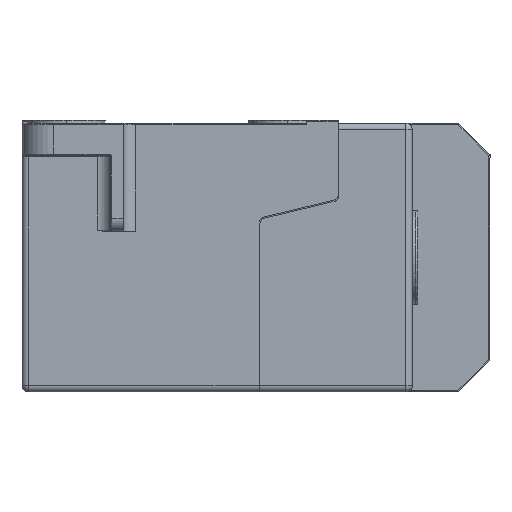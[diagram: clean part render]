
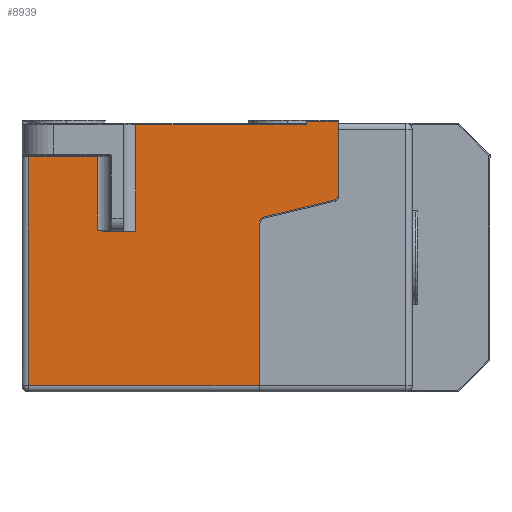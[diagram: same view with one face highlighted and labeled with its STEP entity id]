
A CAD part, left-side view. The second image highlights one B-rep face of the part: STEP entity #8939.
In plain terms, the highlighted planar face has unit normal (-1, 0, 0).
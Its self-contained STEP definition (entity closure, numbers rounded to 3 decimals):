
#9 = VERTEX_POINT ( 'NONE', #10874 ) ;
#261 = ORIENTED_EDGE ( 'NONE', *, *, #4967, .T. ) ;
#498 = LINE ( 'NONE', #16789, #13470 ) ;
#614 = CARTESIAN_POINT ( 'NONE',  ( -28.25, -9.82, 15.95 ) ) ;
#731 = VERTEX_POINT ( 'NONE', #8170 ) ;
#748 = CIRCLE ( 'NONE', #12343, 1. ) ;
#928 = EDGE_CURVE ( 'NONE', #17488, #10133, #8246, .T. ) ;
#931 = DIRECTION ( 'NONE',  ( 0., -1., 0. ) ) ;
#943 = EDGE_CURVE ( 'NONE', #4259, #10300, #11439, .T. ) ;
#1082 = VECTOR ( 'NONE', #17189, 1000. ) ;
#1321 = LINE ( 'NONE', #8893, #17265 ) ;
#1484 = EDGE_LOOP ( 'NONE', ( #13990, #9641, #17494, #7492, #1704, #8102, #261, #4943, #13448, #2983, #2399, #9539, #15012, #11190, #14507 ) ) ;
#1704 = ORIENTED_EDGE ( 'NONE', *, *, #17612, .T. ) ;
#2195 = B_SPLINE_CURVE_WITH_KNOTS ( 'NONE', 3,
 ( #3677, #13184, #14422, #17338, #17218, #6281 ),
 .UNSPECIFIED., .F., .F.,
 ( 4, 2, 4 ),
 ( 0., 0., 0.001 ),
 .UNSPECIFIED. ) ;
#2205 = VERTEX_POINT ( 'NONE', #8813 ) ;
#2260 = EDGE_CURVE ( 'NONE', #9, #14930, #14151, .T. ) ;
#2310 = FACE_OUTER_BOUND ( 'NONE', #1484, .T. ) ;
#2316 = AXIS2_PLACEMENT_3D ( 'NONE', #5089, #3665, #17075 ) ;
#2399 = ORIENTED_EDGE ( 'NONE', *, *, #8141, .T. ) ;
#2705 = DIRECTION ( 'NONE',  ( 0., 0., -1. ) ) ;
#2983 = ORIENTED_EDGE ( 'NONE', *, *, #15785, .T. ) ;
#3482 = VERTEX_POINT ( 'NONE', #6867 ) ;
#3537 = DIRECTION ( 'NONE',  ( 0., 0., 1. ) ) ;
#3665 = DIRECTION ( 'NONE',  ( -1., 0., 0. ) ) ;
#3677 = CARTESIAN_POINT ( 'NONE',  ( -28.25, -10.737, 4.15 ) ) ;
#3710 = LINE ( 'NONE', #12188, #9440 ) ;
#3778 = VERTEX_POINT ( 'NONE', #13993 ) ;
#3858 = VERTEX_POINT ( 'NONE', #14454 ) ;
#3953 = CARTESIAN_POINT ( 'NONE',  ( -28.25, -15.82, 21.05 ) ) ;
#3956 = LINE ( 'NONE', #8504, #16912 ) ;
#3969 = VERTEX_POINT ( 'NONE', #10594 ) ;
#4259 = VERTEX_POINT ( 'NONE', #614 ) ;
#4457 = VECTOR ( 'NONE', #14435, 1000. ) ;
#4781 = DIRECTION ( 'NONE',  ( 0., 0., -1. ) ) ;
#4787 = VERTEX_POINT ( 'NONE', #7178 ) ;
#4789 = CARTESIAN_POINT ( 'NONE',  ( -28.25, 1.18, 15.95 ) ) ;
#4943 = ORIENTED_EDGE ( 'NONE', *, *, #7413, .T. ) ;
#4967 = EDGE_CURVE ( 'NONE', #17488, #731, #2195, .T. ) ;
#5089 = CARTESIAN_POINT ( 'NONE',  ( -28.25, -46.82, 10.038 ) ) ;
#5499 = LINE ( 'NONE', #15739, #4457 ) ;
#5874 = EDGE_CURVE ( 'NONE', #3778, #2205, #16897, .T. ) ;
#5992 = DIRECTION ( 'NONE',  ( 1., 0., 0. ) ) ;
#6146 = DIRECTION ( 'NONE',  ( 0., 1., 0. ) ) ;
#6281 = CARTESIAN_POINT ( 'NONE',  ( -28.25, -9.82, 4.35 ) ) ;
#6553 = VERTEX_POINT ( 'NONE', #3953 ) ;
#6659 = CARTESIAN_POINT ( 'NONE',  ( -28.25, 1.18, 15.95 ) ) ;
#6867 = CARTESIAN_POINT ( 'NONE',  ( -28.25, 1.18, -20.25 ) ) ;
#7165 = LINE ( 'NONE', #13092, #13544 ) ;
#7178 = CARTESIAN_POINT ( 'NONE',  ( -28.25, -35.32, -20.25 ) ) ;
#7413 = EDGE_CURVE ( 'NONE', #731, #4259, #1321, .T. ) ;
#7417 = CARTESIAN_POINT ( 'NONE',  ( -28.25, -35.32, 21.25 ) ) ;
#7492 = ORIENTED_EDGE ( 'NONE', *, *, #15004, .T. ) ;
#7603 = CARTESIAN_POINT ( 'NONE',  ( -28.25, -42.82, 21.55 ) ) ;
#7672 = LINE ( 'NONE', #10488, #11496 ) ;
#7689 = DIRECTION ( 'NONE',  ( 1., 0., 0. ) ) ;
#7878 = AXIS2_PLACEMENT_3D ( 'NONE', #7417, #5992, #12825 ) ;
#8102 = ORIENTED_EDGE ( 'NONE', *, *, #928, .F. ) ;
#8141 = EDGE_CURVE ( 'NONE', #3482, #4787, #7672, .T. ) ;
#8159 = CARTESIAN_POINT ( 'NONE',  ( -28.25, 1.18, -20.25 ) ) ;
#8170 = CARTESIAN_POINT ( 'NONE',  ( -28.25, -9.82, 4.35 ) ) ;
#8246 = LINE ( 'NONE', #15761, #14203 ) ;
#8504 = CARTESIAN_POINT ( 'NONE',  ( -28.25, -42.82, 21.75 ) ) ;
#8559 = CARTESIAN_POINT ( 'NONE',  ( -28.25, -36.087, 6.434 ) ) ;
#8811 = DIRECTION ( 'NONE',  ( 0., 0., -1. ) ) ;
#8813 = CARTESIAN_POINT ( 'NONE',  ( -28.25, -42.82, 21.55 ) ) ;
#8893 = CARTESIAN_POINT ( 'NONE',  ( -28.25, -9.82, 16.15 ) ) ;
#8939 = ADVANCED_FACE ( 'NONE', ( #2310 ), #15599, .F. ) ;
#9440 = VECTOR ( 'NONE', #9575, 1000. ) ;
#9539 = ORIENTED_EDGE ( 'NONE', *, *, #16200, .F. ) ;
#9575 = DIRECTION ( 'NONE',  ( 0., 0., -1. ) ) ;
#9641 = ORIENTED_EDGE ( 'NONE', *, *, #5874, .T. ) ;
#10105 = CARTESIAN_POINT ( 'NONE',  ( -28.25, -47.82, 10.038 ) ) ;
#10120 = VERTEX_POINT ( 'NONE', #8559 ) ;
#10125 = DIRECTION ( 'NONE',  ( 0., -1., 0. ) ) ;
#10133 = VERTEX_POINT ( 'NONE', #16877 ) ;
#10300 = VERTEX_POINT ( 'NONE', #6659 ) ;
#10303 = CARTESIAN_POINT ( 'NONE',  ( -28.25, -38.724, 7.067 ) ) ;
#10333 = DIRECTION ( 'NONE',  ( 0., 1., 0. ) ) ;
#10488 = CARTESIAN_POINT ( 'NONE',  ( -28.25, -35.32, -20.25 ) ) ;
#10594 = CARTESIAN_POINT ( 'NONE',  ( -28.25, -35.32, 5.462 ) ) ;
#10730 = VECTOR ( 'NONE', #10333, 1000. ) ;
#10852 = LINE ( 'NONE', #10303, #1082 ) ;
#10874 = CARTESIAN_POINT ( 'NONE',  ( -28.25, -47.053, 9.066 ) ) ;
#11190 = ORIENTED_EDGE ( 'NONE', *, *, #14416, .T. ) ;
#11252 = DIRECTION ( 'NONE',  ( 0., 0., -1. ) ) ;
#11439 = LINE ( 'NONE', #4789, #13580 ) ;
#11496 = VECTOR ( 'NONE', #931, 1000. ) ;
#11660 = CARTESIAN_POINT ( 'NONE',  ( -28.25, -36.32, 5.462 ) ) ;
#12022 = EDGE_CURVE ( 'NONE', #3969, #10120, #748, .T. ) ;
#12057 = LINE ( 'NONE', #8159, #16742 ) ;
#12188 = CARTESIAN_POINT ( 'NONE',  ( -28.25, -47.82, 21.25 ) ) ;
#12322 = EDGE_CURVE ( 'NONE', #3778, #14930, #3710, .T. ) ;
#12343 = AXIS2_PLACEMENT_3D ( 'NONE', #11660, #7689, #3537 ) ;
#12825 = DIRECTION ( 'NONE',  ( 0., 0., 1. ) ) ;
#13092 = CARTESIAN_POINT ( 'NONE',  ( -28.25, -35.32, 21.25 ) ) ;
#13184 = CARTESIAN_POINT ( 'NONE',  ( -28.25, -10.579, 4.15 ) ) ;
#13448 = ORIENTED_EDGE ( 'NONE', *, *, #943, .T. ) ;
#13470 = VECTOR ( 'NONE', #8811, 1000. ) ;
#13544 = VECTOR ( 'NONE', #4781, 1000. ) ;
#13580 = VECTOR ( 'NONE', #6146, 1000. ) ;
#13990 = ORIENTED_EDGE ( 'NONE', *, *, #12322, .F. ) ;
#13993 = CARTESIAN_POINT ( 'NONE',  ( -28.25, -47.82, 21.55 ) ) ;
#14151 = CIRCLE ( 'NONE', #2316, 1. ) ;
#14203 = VECTOR ( 'NONE', #10125, 1000. ) ;
#14416 = EDGE_CURVE ( 'NONE', #10120, #9, #10852, .T. ) ;
#14422 = CARTESIAN_POINT ( 'NONE',  ( -28.25, -10.424, 4.179 ) ) ;
#14435 = DIRECTION ( 'NONE',  ( 0., 1., 0. ) ) ;
#14454 = CARTESIAN_POINT ( 'NONE',  ( -28.25, -42.82, 21.05 ) ) ;
#14507 = ORIENTED_EDGE ( 'NONE', *, *, #2260, .T. ) ;
#14930 = VERTEX_POINT ( 'NONE', #10105 ) ;
#15004 = EDGE_CURVE ( 'NONE', #3858, #6553, #5499, .T. ) ;
#15012 = ORIENTED_EDGE ( 'NONE', *, *, #12022, .T. ) ;
#15061 = CARTESIAN_POINT ( 'NONE',  ( -28.25, -10.737, 4.15 ) ) ;
#15599 = PLANE ( 'NONE',  #7878 ) ;
#15739 = CARTESIAN_POINT ( 'NONE',  ( -28.25, -15.82, 21.05 ) ) ;
#15761 = CARTESIAN_POINT ( 'NONE',  ( -28.25, -13.82, 4.15 ) ) ;
#15785 = EDGE_CURVE ( 'NONE', #10300, #3482, #12057, .T. ) ;
#16200 = EDGE_CURVE ( 'NONE', #3969, #4787, #7165, .T. ) ;
#16611 = EDGE_CURVE ( 'NONE', #2205, #3858, #3956, .T. ) ;
#16742 = VECTOR ( 'NONE', #2705, 1000. ) ;
#16789 = CARTESIAN_POINT ( 'NONE',  ( -28.25, -15.82, 21.25 ) ) ;
#16868 = DIRECTION ( 'NONE',  ( 0., 0., 1. ) ) ;
#16877 = CARTESIAN_POINT ( 'NONE',  ( -28.25, -15.82, 4.15 ) ) ;
#16897 = LINE ( 'NONE', #7603, #10730 ) ;
#16912 = VECTOR ( 'NONE', #11252, 1000. ) ;
#17075 = DIRECTION ( 'NONE',  ( 0., 0., 1. ) ) ;
#17189 = DIRECTION ( 'NONE',  ( 0., -0.972, 0.233 ) ) ;
#17218 = CARTESIAN_POINT ( 'NONE',  ( -28.25, -9.969, 4.303 ) ) ;
#17265 = VECTOR ( 'NONE', #16868, 1000. ) ;
#17338 = CARTESIAN_POINT ( 'NONE',  ( -28.25, -10.119, 4.255 ) ) ;
#17488 = VERTEX_POINT ( 'NONE', #15061 ) ;
#17494 = ORIENTED_EDGE ( 'NONE', *, *, #16611, .T. ) ;
#17612 = EDGE_CURVE ( 'NONE', #6553, #10133, #498, .T. ) ;
